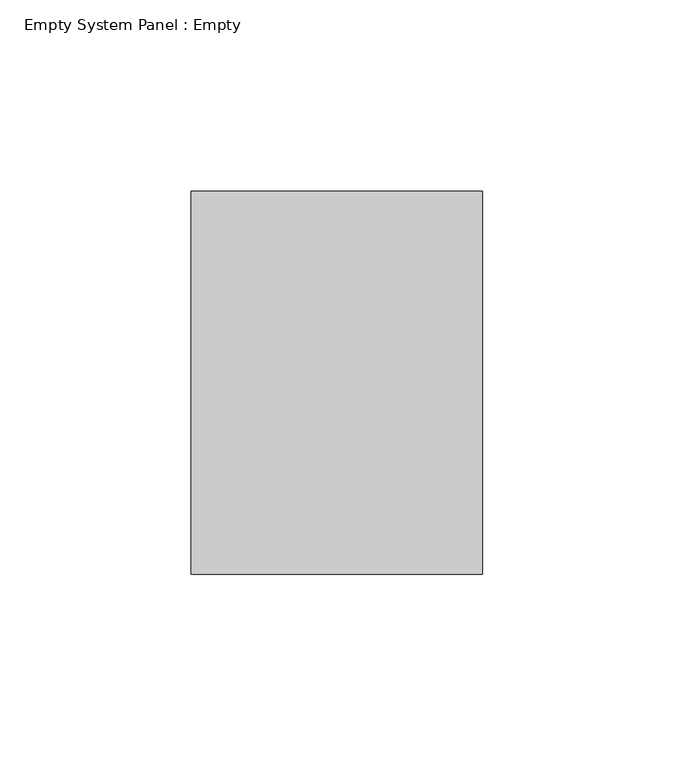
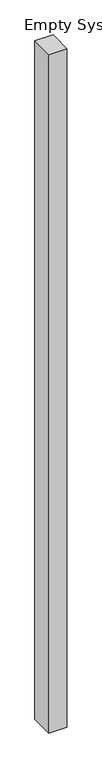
"""IFC4 building model written with IfcOpenShell, lengths in millimetres: plate geometry, Empty System Panel : Empty."""

from ifc_helpers import new_model, si_unit, origin, origin_with_axes, place, context, project, spatial, polyline, outline, extrude, source, transform, mapped, element, save


def empty_system_panel_empty_cbd4e42b(model_context):
    return source(origin(), model_context, "Body", "SweptSolid", [
        extrude(outline(polyline([(38.0240745, 50.0), (-38.0240745, 50.0), (-38.0240745, 150.0), (38.0240745, 150.0), (38.0240745, 50.0)])), origin_with_axes(), (0.0, 0.0, 1.0), 3000.0),
    ])


if __name__ == "__main__":
    model = new_model("IFC4")
    model_context = context("Model", 3, world=origin())
    ifc_project = project(units=[si_unit("LENGTHUNIT", "METRE", prefix="MILLI")], contexts=[model_context])
    site = spatial("IfcSite", under=ifc_project)
    building = spatial("IfcBuilding", under=site)
    placement = place(None, origin())
    empty_system_panel_empty_shape = empty_system_panel_empty_cbd4e42b(model_context)
    element("IfcPlate", 1, ObjectType="Empty System Panel : Empty", at=placement, inside=building, context=model_context, shape_type="MappedRepresentation", body=[
        mapped(empty_system_panel_empty_shape, transform((0.0, 0.0, 0.0), x_axis=(1.0, 0.0, 0.0), y_axis=(0.0, 1.0, 0.0), z_axis=(0.0, 0.0, 1.0))),
    ])
    save(model, "model.ifc")
